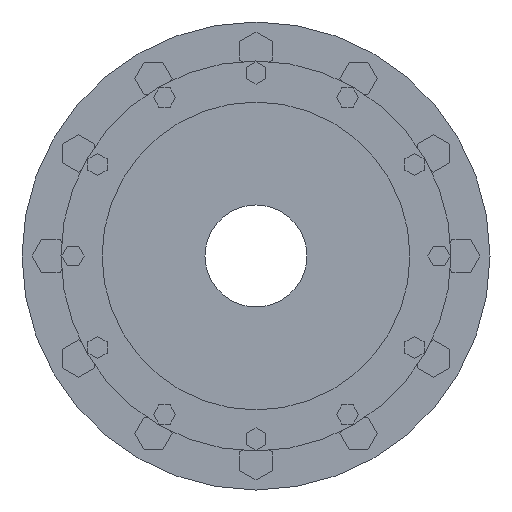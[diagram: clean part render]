
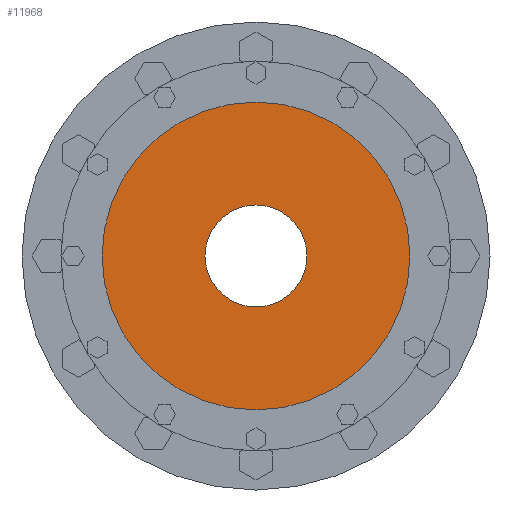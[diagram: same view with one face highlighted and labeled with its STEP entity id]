
A CAD part, left-side view. The second image highlights one B-rep face of the part: STEP entity #11968.
In plain terms, the highlighted planar face has unit normal (-1, 0, 0).
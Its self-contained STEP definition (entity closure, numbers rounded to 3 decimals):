
#11666=CARTESIAN_POINT('',(-196.,0.,0.));
#11667=DIRECTION('',(1.,0.,0.));
#11668=DIRECTION('',(0.,1.,0.));
#11669=AXIS2_PLACEMENT_3D('',#11666,#11667,#11668);
#11745=CARTESIAN_POINT('',(-196.,0.,0.));
#11746=DIRECTION('',(-1.,0.,0.));
#11747=DIRECTION('',(0.,1.,0.));
#11748=AXIS2_PLACEMENT_3D('',#11745,#11746,#11747);
#11750=CARTESIAN_POINT('',(-196.,0.,0.));
#11751=DIRECTION('',(1.,0.,0.));
#11752=DIRECTION('',(0.,1.,0.));
#11753=AXIS2_PLACEMENT_3D('',#11750,#11751,#11752);
#11764=CARTESIAN_POINT('',(-196.,0.,0.));
#11765=DIRECTION('',(-1.,0.,0.));
#11766=DIRECTION('',(0.,1.,0.));
#11767=AXIS2_PLACEMENT_3D('',#11764,#11765,#11766);
#11773=CARTESIAN_POINT('',(-196.,42.5,0.));
#11774=CARTESIAN_POINT('',(-196.,-42.5,0.));
#11775=VERTEX_POINT('',#11773);
#11776=VERTEX_POINT('',#11774);
#11777=CARTESIAN_POINT('',(-196.,128.25,0.));
#11778=CARTESIAN_POINT('',(-196.,-128.25,0.));
#11779=VERTEX_POINT('',#11777);
#11780=VERTEX_POINT('',#11778);
#11954=CARTESIAN_POINT('',(-196.,0.,0.));
#11955=DIRECTION('',(1.,0.,0.));
#11956=DIRECTION('',(0.,-1.,0.));
#11957=AXIS2_PLACEMENT_3D('',#11954,#11955,#11956);
#11958=PLANE('',#11957);
#11959=ORIENTED_EDGE('',*,*,#11936,.F.);
#11960=ORIENTED_EDGE('',*,*,#11949,.T.);
#11961=EDGE_LOOP('',(#11959,#11960));
#11962=FACE_OUTER_BOUND('',#11961,.F.);
#11963=ORIENTED_EDGE('',*,*,#11814,.F.);
#11965=ORIENTED_EDGE('',*,*,#11964,.T.);
#11966=EDGE_LOOP('',(#11963,#11965));
#11967=FACE_BOUND('',#11966,.F.);
#11968=ADVANCED_FACE('',(#11962,#11967),#11958,.F.);
#11670=CIRCLE('',#11669,42.5);
#11749=CIRCLE('',#11748,128.25);
#11754=CIRCLE('',#11753,128.25);
#11768=CIRCLE('',#11767,42.5);
#11814=EDGE_CURVE('',#11775,#11776,#11670,.T.);
#11936=EDGE_CURVE('',#11779,#11780,#11749,.T.);
#11949=EDGE_CURVE('',#11779,#11780,#11754,.T.);
#11964=EDGE_CURVE('',#11775,#11776,#11768,.T.);
